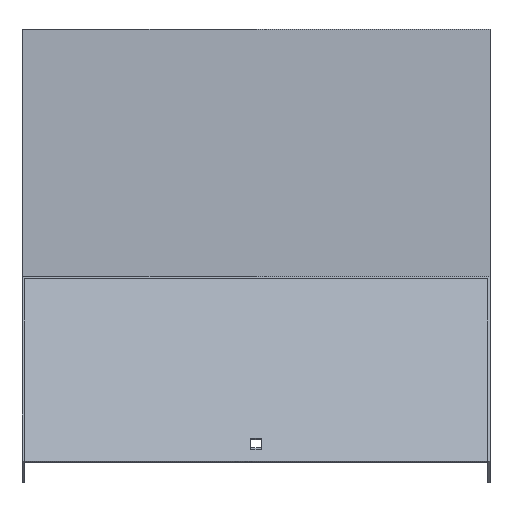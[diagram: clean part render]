
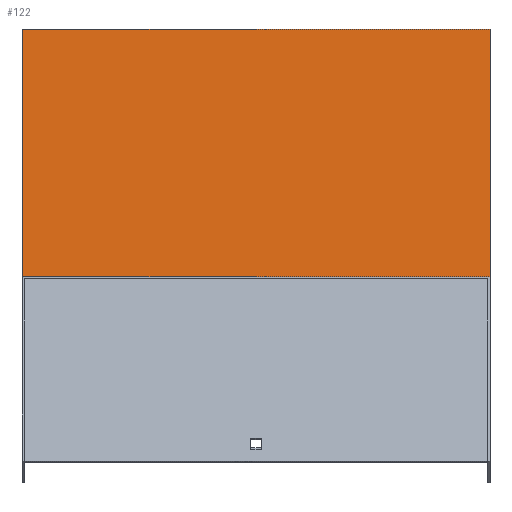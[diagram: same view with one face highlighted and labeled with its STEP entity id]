
A CAD part, top view. The second image highlights one B-rep face of the part: STEP entity #122.
In plain terms, the highlighted planar face has unit normal (0, 0.924, 0.383).
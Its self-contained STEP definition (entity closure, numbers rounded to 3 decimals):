
#11 = EDGE_CURVE ( 'NONE', #447, #137, #71, .T. ) ;
#36 = VECTOR ( 'NONE', #242, 1000. ) ;
#45 = LINE ( 'NONE', #441, #36 ) ;
#68 = ORIENTED_EDGE ( 'NONE', *, *, #395, .T. ) ;
#71 = LINE ( 'NONE', #330, #322 ) ;
#72 = CARTESIAN_POINT ( 'NONE',  ( -151.5, -141.093, 557.891 ) ) ;
#79 = DIRECTION ( 'NONE',  ( 0., -0.383, 0.924 ) ) ;
#90 = CARTESIAN_POINT ( 'NONE',  ( 151.5, 18.478, 172.654 ) ) ;
#119 = CARTESIAN_POINT ( 'NONE',  ( 151.5, 20., 168.978 ) ) ;
#122 = ADVANCED_FACE ( 'NONE', ( #159 ), #624, .F. ) ;
#137 = VERTEX_POINT ( 'NONE', #555 ) ;
#139 = VECTOR ( 'NONE', #843, 1000. ) ;
#159 = FACE_OUTER_BOUND ( 'NONE', #248, .T. ) ;
#209 = CARTESIAN_POINT ( 'NONE',  ( -151.5, 20., 168.978 ) ) ;
#219 = EDGE_CURVE ( 'NONE', #137, #796, #781, .T. ) ;
#242 = DIRECTION ( 'NONE',  ( -1., 0., 0. ) ) ;
#246 = CARTESIAN_POINT ( 'NONE',  ( 151.5, -141.093, 557.891 ) ) ;
#247 = AXIS2_PLACEMENT_3D ( 'NONE', #90, #413, #610 ) ;
#248 = EDGE_LOOP ( 'NONE', ( #68, #703, #298, #314 ) ) ;
#282 = DIRECTION ( 'NONE',  ( 0., -0.383, 0.924 ) ) ;
#298 = ORIENTED_EDGE ( 'NONE', *, *, #11, .F. ) ;
#314 = ORIENTED_EDGE ( 'NONE', *, *, #427, .T. ) ;
#322 = VECTOR ( 'NONE', #79, 1000. ) ;
#330 = CARTESIAN_POINT ( 'NONE',  ( 151.5, 18.478, 172.654 ) ) ;
#395 = EDGE_CURVE ( 'NONE', #850, #796, #408, .T. ) ;
#408 = LINE ( 'NONE', #668, #649 ) ;
#413 = DIRECTION ( 'NONE',  ( 0., -0.924, -0.383 ) ) ;
#427 = EDGE_CURVE ( 'NONE', #447, #850, #45, .T. ) ;
#441 = CARTESIAN_POINT ( 'NONE',  ( 151.5, 20., 168.978 ) ) ;
#447 = VERTEX_POINT ( 'NONE', #119 ) ;
#555 = CARTESIAN_POINT ( 'NONE',  ( 151.5, -141.093, 557.891 ) ) ;
#610 = DIRECTION ( 'NONE',  ( 0., 0.383, -0.924 ) ) ;
#624 = PLANE ( 'NONE',  #247 ) ;
#649 = VECTOR ( 'NONE', #282, 1000. ) ;
#668 = CARTESIAN_POINT ( 'NONE',  ( -151.5, 18.478, 172.654 ) ) ;
#703 = ORIENTED_EDGE ( 'NONE', *, *, #219, .F. ) ;
#781 = LINE ( 'NONE', #246, #139 ) ;
#796 = VERTEX_POINT ( 'NONE', #72 ) ;
#843 = DIRECTION ( 'NONE',  ( -1., 0., 0. ) ) ;
#850 = VERTEX_POINT ( 'NONE', #209 ) ;
